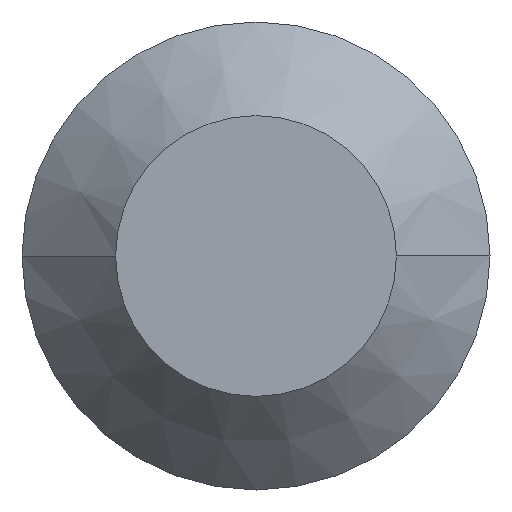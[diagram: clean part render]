
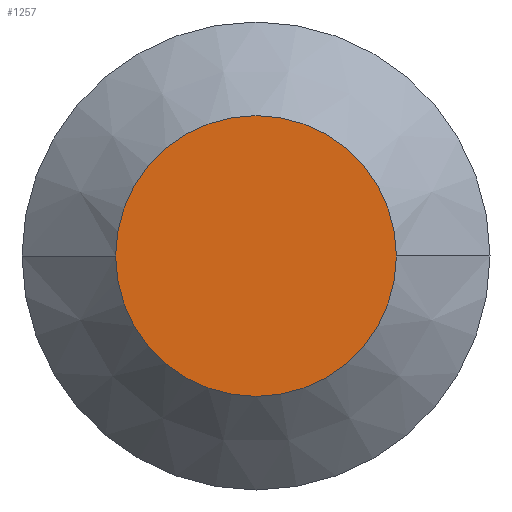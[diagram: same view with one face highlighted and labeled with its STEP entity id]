
A CAD part, front view. The second image highlights one B-rep face of the part: STEP entity #1257.
In plain terms, the highlighted planar face has unit normal (0, -1, 0).
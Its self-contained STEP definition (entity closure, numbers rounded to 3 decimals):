
#85 = DIRECTION ( 'NONE',  ( 0., 1., 0. ) ) ;
#100 = DIRECTION ( 'NONE',  ( -1., 0., 0. ) ) ;
#185 = CARTESIAN_POINT ( 'NONE',  ( -6., 0., 0. ) ) ;
#203 = AXIS2_PLACEMENT_3D ( 'NONE', #1420, #1441, #1459 ) ;
#418 = AXIS2_PLACEMENT_3D ( 'NONE', #1014, #85, #100 ) ;
#441 = CARTESIAN_POINT ( 'NONE',  ( 6., 0., 0. ) ) ;
#453 = ORIENTED_EDGE ( 'NONE', *, *, #1995, .F. ) ;
#526 = DIRECTION ( 'NONE',  ( 1., 0., 0. ) ) ;
#548 = EDGE_CURVE ( 'NONE', #905, #604, #694, .T. ) ;
#604 = VERTEX_POINT ( 'NONE', #441 ) ;
#694 = CIRCLE ( 'NONE', #418, 6. ) ;
#780 = ORIENTED_EDGE ( 'NONE', *, *, #548, .F. ) ;
#799 = AXIS2_PLACEMENT_3D ( 'NONE', #1732, #1273, #526 ) ;
#905 = VERTEX_POINT ( 'NONE', #185 ) ;
#1014 = CARTESIAN_POINT ( 'NONE',  ( 0., 0., 0. ) ) ;
#1050 = FACE_OUTER_BOUND ( 'NONE', #1272, .T. ) ;
#1257 = ADVANCED_FACE ( 'NONE', ( #1050 ), #1711, .T. ) ;
#1272 = EDGE_LOOP ( 'NONE', ( #780, #453 ) ) ;
#1273 = DIRECTION ( 'NONE',  ( 0., -1., 0. ) ) ;
#1420 = CARTESIAN_POINT ( 'NONE',  ( 0., 0., 0. ) ) ;
#1441 = DIRECTION ( 'NONE',  ( 0., 1., 0. ) ) ;
#1459 = DIRECTION ( 'NONE',  ( -1., 0., 0. ) ) ;
#1486 = CIRCLE ( 'NONE', #203, 6. ) ;
#1711 = PLANE ( 'NONE',  #799 ) ;
#1732 = CARTESIAN_POINT ( 'NONE',  ( -6., 0., 0. ) ) ;
#1995 = EDGE_CURVE ( 'NONE', #604, #905, #1486, .T. ) ;
